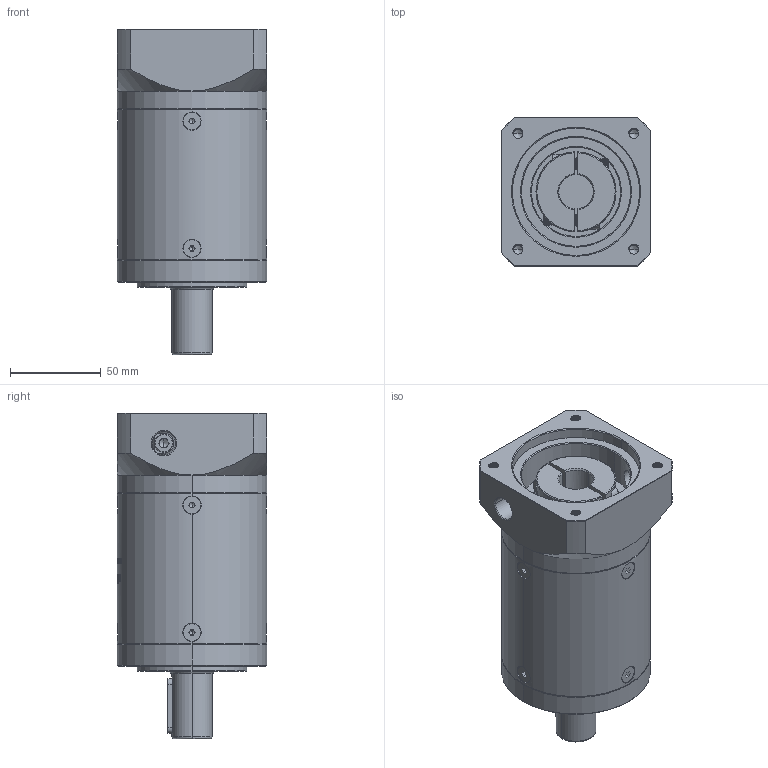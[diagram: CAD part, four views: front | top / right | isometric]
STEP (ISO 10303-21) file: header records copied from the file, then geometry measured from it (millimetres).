
FILE_DESCRIPTION (( 'STEP AP214' ), '1' );
FILE_NAME ('ZE80-D22-L3-19-70-90-M6.step', '2022-05-08T05:55:44', ( '' ), ( 'Microsoft' ), 'SwSTEP 2.0', 'SolidWorks 2016', '' );
FILE_SCHEMA (( 'AUTOMOTIVE_DESIGN' ));
Length unit declared in the file: millimetre
Products named in the file (1): ZE80-D22-L3-19-70-90-M6
Bounding box: 82 x 82 x 179 mm (x, y, z)
Volume: 714066.6 mm3; surface area: 93176.1 mm2
Topology: 13 solids, 13 shells, 2057 faces, 5359 edges, 3390 vertices
Faces by surface type: plane 886, cylinder 500, bspline 332, cone 322, torus 17
Entity records: 118267 total; most frequent: CARTESIAN_POINT 49551, ORIENTED_EDGE 10642, DIRECTION 8164, EDGE_CURVE 5321, VERTEX_POINT 3390, VECTOR 2850, LINE 2850, AXIS2_PLACEMENT_3D 2657
